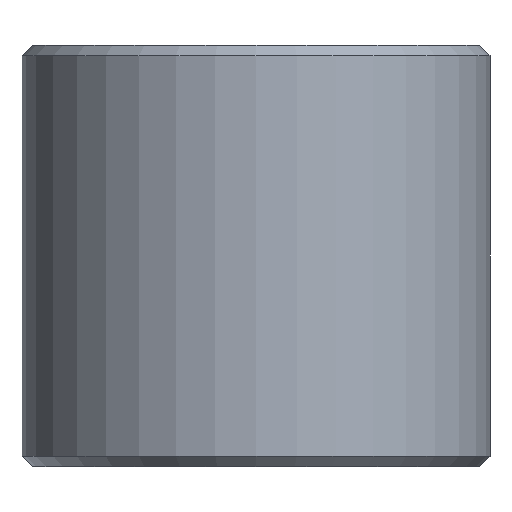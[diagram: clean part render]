
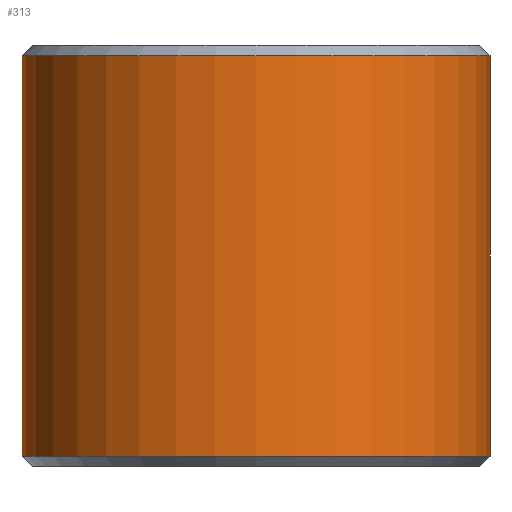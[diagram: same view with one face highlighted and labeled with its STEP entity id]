
A CAD part, front view. The second image highlights one B-rep face of the part: STEP entity #313.
In plain terms, the highlighted cylindrical face has radius 20 mm (diameter 40 mm), a partial arc.
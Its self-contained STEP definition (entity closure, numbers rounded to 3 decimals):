
#31 = DIRECTION ( 'NONE',  ( 0., 0., -1. ) ) ;
#34 = CARTESIAN_POINT ( 'NONE',  ( -20., 0., 18. ) ) ;
#55 = ORIENTED_EDGE ( 'NONE', *, *, #133, .T. ) ;
#64 = DIRECTION ( 'NONE',  ( 0., 0., -1. ) ) ;
#71 = EDGE_CURVE ( 'NONE', #436, #357, #109, .T. ) ;
#73 = DIRECTION ( 'NONE',  ( -1., 0., 0. ) ) ;
#81 = CYLINDRICAL_SURFACE ( 'NONE', #93, 20. ) ;
#87 = ORIENTED_EDGE ( 'NONE', *, *, #215, .F. ) ;
#93 = AXIS2_PLACEMENT_3D ( 'NONE', #221, #146, #73 ) ;
#100 = DIRECTION ( 'NONE',  ( 1., 0., 0. ) ) ;
#107 = CARTESIAN_POINT ( 'NONE',  ( 20., 0., 18. ) ) ;
#109 = CIRCLE ( 'NONE', #310, 20. ) ;
#133 = EDGE_CURVE ( 'NONE', #447, #436, #309, .T. ) ;
#146 = DIRECTION ( 'NONE',  ( 0., 0., -1. ) ) ;
#152 = DIRECTION ( 'NONE',  ( 0., 0., -1. ) ) ;
#159 = EDGE_LOOP ( 'NONE', ( #87, #259, #55, #353 ) ) ;
#215 = EDGE_CURVE ( 'NONE', #337, #357, #403, .T. ) ;
#221 = CARTESIAN_POINT ( 'NONE',  ( 0., 0., 18. ) ) ;
#239 = DIRECTION ( 'NONE',  ( 0., 0., 1. ) ) ;
#250 = FACE_OUTER_BOUND ( 'NONE', #159, .T. ) ;
#254 = CARTESIAN_POINT ( 'NONE',  ( 20., 0., 17.1 ) ) ;
#259 = ORIENTED_EDGE ( 'NONE', *, *, #431, .T. ) ;
#265 = CARTESIAN_POINT ( 'NONE',  ( -20., 0., 17.1 ) ) ;
#270 = VECTOR ( 'NONE', #31, 1000. ) ;
#287 = CARTESIAN_POINT ( 'NONE',  ( 20., 0., -17.1 ) ) ;
#295 = AXIS2_PLACEMENT_3D ( 'NONE', #323, #152, #327 ) ;
#309 = LINE ( 'NONE', #34, #435 ) ;
#310 = AXIS2_PLACEMENT_3D ( 'NONE', #311, #239, #100 ) ;
#311 = CARTESIAN_POINT ( 'NONE',  ( 0., 0., -17.1 ) ) ;
#313 = ADVANCED_FACE ( 'NONE', ( #250 ), #81, .T. ) ;
#323 = CARTESIAN_POINT ( 'NONE',  ( 0., 0., 17.1 ) ) ;
#327 = DIRECTION ( 'NONE',  ( 1., 0., 0. ) ) ;
#335 = CIRCLE ( 'NONE', #295, 20. ) ;
#337 = VERTEX_POINT ( 'NONE', #254 ) ;
#353 = ORIENTED_EDGE ( 'NONE', *, *, #71, .T. ) ;
#357 = VERTEX_POINT ( 'NONE', #287 ) ;
#403 = LINE ( 'NONE', #107, #270 ) ;
#431 = EDGE_CURVE ( 'NONE', #337, #447, #335, .T. ) ;
#434 = CARTESIAN_POINT ( 'NONE',  ( -20., 0., -17.1 ) ) ;
#435 = VECTOR ( 'NONE', #64, 1000. ) ;
#436 = VERTEX_POINT ( 'NONE', #434 ) ;
#447 = VERTEX_POINT ( 'NONE', #265 ) ;
